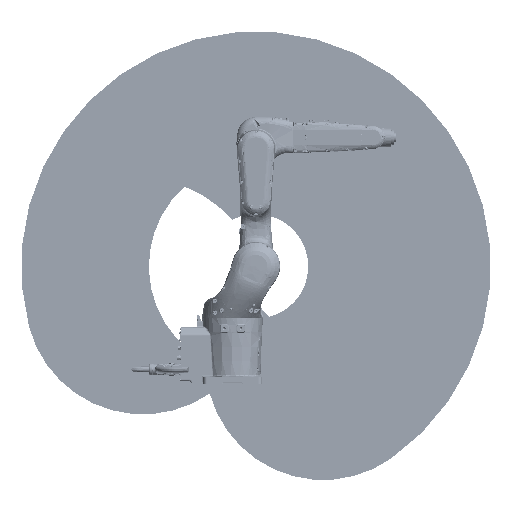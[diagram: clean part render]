
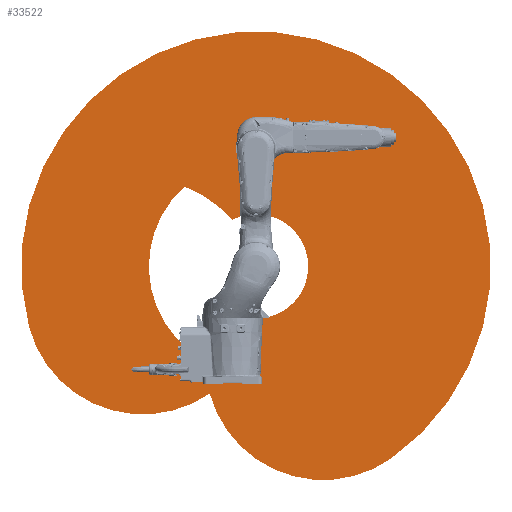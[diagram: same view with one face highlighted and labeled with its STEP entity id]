
A CAD part, front view. The second image highlights one B-rep face of the part: STEP entity #33522.
In plain terms, the highlighted planar face has unit normal (0, 0, -1) by its records, which use the part's own axes.
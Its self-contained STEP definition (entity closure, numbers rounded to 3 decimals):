
#16191=FACE_BOUND('',#58274,.T.);
#16192=FACE_BOUND('',#58275,.T.);
#23422=CIRCLE('',#172243,502.494);
#23423=CIRCLE('',#172244,1002.494);
#23424=CIRCLE('',#172245,502.494);
#23425=CIRCLE('',#172246,502.494);
#23426=CIRCLE('',#172247,457.382);
#23427=CIRCLE('',#172248,502.494);
#23428=CIRCLE('',#172249,223.058);
#33522=ADVANCED_FACE('',(#16191,#16192),#37899,.T.);
#37899=PLANE('',#172250);
#58274=EDGE_LOOP('',(#102132,#102133,#102134));
#58275=EDGE_LOOP('',(#102135,#102136,#102137,#102138));
#102132=ORIENTED_EDGE('',*,*,#137526,.T.);
#102133=ORIENTED_EDGE('',*,*,#137527,.T.);
#102134=ORIENTED_EDGE('',*,*,#137528,.T.);
#102135=ORIENTED_EDGE('',*,*,#137529,.T.);
#102136=ORIENTED_EDGE('',*,*,#137530,.T.);
#102137=ORIENTED_EDGE('',*,*,#137531,.T.);
#102138=ORIENTED_EDGE('',*,*,#137532,.T.);
#115591=VERTEX_POINT('',#415581);
#115592=VERTEX_POINT('',#415582);
#115593=VERTEX_POINT('',#415584);
#115594=VERTEX_POINT('',#415587);
#115595=VERTEX_POINT('',#415588);
#115596=VERTEX_POINT('',#415590);
#115597=VERTEX_POINT('',#415592);
#137526=EDGE_CURVE('',#115591,#115592,#23422,.T.);
#137527=EDGE_CURVE('',#115592,#115593,#23423,.T.);
#137528=EDGE_CURVE('',#115593,#115591,#23424,.T.);
#137529=EDGE_CURVE('',#115594,#115595,#23425,.T.);
#137530=EDGE_CURVE('',#115595,#115596,#23426,.T.);
#137531=EDGE_CURVE('',#115596,#115597,#23427,.T.);
#137532=EDGE_CURVE('',#115597,#115594,#23428,.T.);
#172243=AXIS2_PLACEMENT_3D('',#415580,#213985,#213986);
#172244=AXIS2_PLACEMENT_3D('',#415583,#213987,#213988);
#172245=AXIS2_PLACEMENT_3D('',#415585,#213989,#213990);
#172246=AXIS2_PLACEMENT_3D('',#415586,#213991,#213992);
#172247=AXIS2_PLACEMENT_3D('',#415589,#213993,#213994);
#172248=AXIS2_PLACEMENT_3D('',#415591,#213995,#213996);
#172249=AXIS2_PLACEMENT_3D('',#415593,#213997,#213998);
#172250=AXIS2_PLACEMENT_3D('',#415594,#213999,#214000);
#213985=DIRECTION('',(0.,0.,-1.));
#213986=DIRECTION('',(1.,0.,0.));
#213987=DIRECTION('',(0.,0.,-1.));
#213988=DIRECTION('',(1.,0.,0.));
#213989=DIRECTION('',(0.,0.,-1.));
#213990=DIRECTION('',(1.,0.,0.));
#213991=DIRECTION('',(0.,0.,1.));
#213992=DIRECTION('',(1.,0.,0.));
#213993=DIRECTION('',(0.,0.,1.));
#213994=DIRECTION('',(1.,0.,0.));
#213995=DIRECTION('',(0.,0.,-1.));
#213996=DIRECTION('',(1.,0.,0.));
#213997=DIRECTION('',(0.,0.,1.));
#213998=DIRECTION('',(1.,0.,0.));
#213999=DIRECTION('',(0.,0.,-1.));
#214000=DIRECTION('',(-1.,0.,0.));
#415580=CARTESIAN_POINT('',(2525.949,1458.825,0.));
#415581=CARTESIAN_POINT('',(2811.257,1045.184,0.));
#415582=CARTESIAN_POINT('',(2040.577,1328.77,0.));
#415583=CARTESIAN_POINT('',(3008.912,1588.235,0.));
#415584=CARTESIAN_POINT('',(3583.919,767.04,0.));
#415585=CARTESIAN_POINT('',(3295.7,1178.659,0.));
#415586=CARTESIAN_POINT('',(2525.949,1458.825,0.));
#415587=CARTESIAN_POINT('',(2906.846,1786.571,0.));
#415588=CARTESIAN_POINT('',(2703.655,1928.847,0.));
#415589=CARTESIAN_POINT('',(3008.912,1588.235,0.));
#415590=CARTESIAN_POINT('',(2793.245,1184.891,0.));
#415591=CARTESIAN_POINT('',(3295.7,1178.659,0.));
#415592=CARTESIAN_POINT('',(2857.445,1424.49,0.));
#415593=CARTESIAN_POINT('',(3008.912,1588.235,0.));
#415594=CARTESIAN_POINT('',(2767.43,1523.53,0.));
